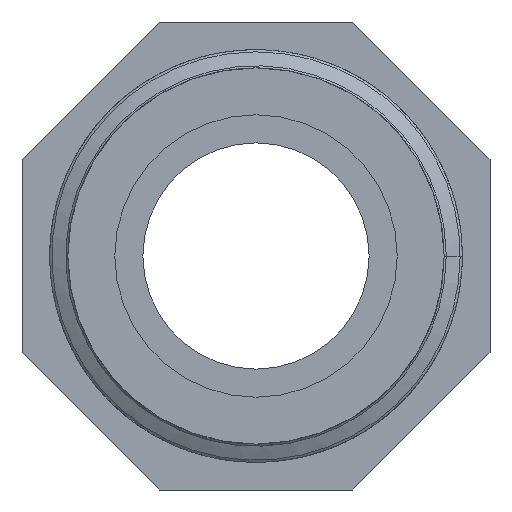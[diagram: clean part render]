
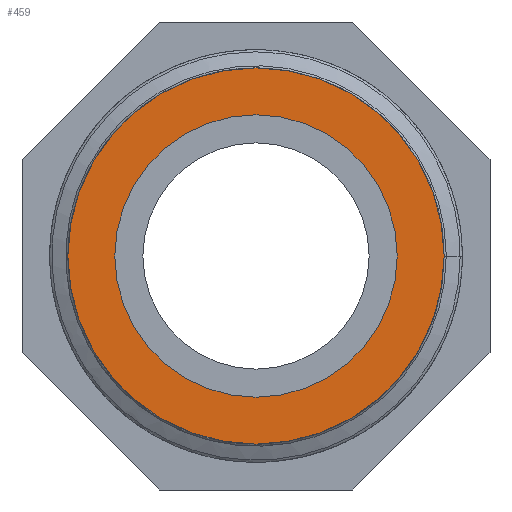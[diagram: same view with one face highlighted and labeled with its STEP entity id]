
A CAD part, front view. The second image highlights one B-rep face of the part: STEP entity #459.
In plain terms, the highlighted planar face has unit normal (0, -1, 0).
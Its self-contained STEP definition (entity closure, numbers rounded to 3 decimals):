
#21=FACE_BOUND('',#100,.T.);
#29=PLANE('',#490);
#49=CIRCLE('',#487,9.05);
#50=CIRCLE('',#489,12.059);
#68=FACE_OUTER_BOUND('',#99,.T.);
#99=EDGE_LOOP('',(#367));
#100=EDGE_LOOP('',(#368));
#208=VERTEX_POINT('',#2779);
#224=VERTEX_POINT('',#7307);
#278=EDGE_CURVE('',#224,#224,#49,.T.);
#279=EDGE_CURVE('',#208,#208,#50,.T.);
#367=ORIENTED_EDGE('',*,*,#279,.T.);
#368=ORIENTED_EDGE('',*,*,#278,.T.);
#459=ADVANCED_FACE('',(#68,#21),#29,.F.);
#487=AXIS2_PLACEMENT_3D('',#7308,#538,#539);
#489=AXIS2_PLACEMENT_3D('',#7310,#542,#543);
#490=AXIS2_PLACEMENT_3D('',#7311,#544,#545);
#538=DIRECTION('center_axis',(0.,1.,0.));
#539=DIRECTION('ref_axis',(-1.,0.,0.));
#542=DIRECTION('center_axis',(0.,-1.,0.));
#543=DIRECTION('ref_axis',(-1.,0.,0.));
#544=DIRECTION('center_axis',(0.,1.,0.));
#545=DIRECTION('ref_axis',(0.,0.,1.));
#2779=CARTESIAN_POINT('',(12.059,-22.,0.));
#7307=CARTESIAN_POINT('',(9.05,-22.,0.));
#7308=CARTESIAN_POINT('Origin',(0.,-22.,0.));
#7310=CARTESIAN_POINT('Origin',(0.,-22.,0.));
#7311=CARTESIAN_POINT('Origin',(0.,-22.,0.));
